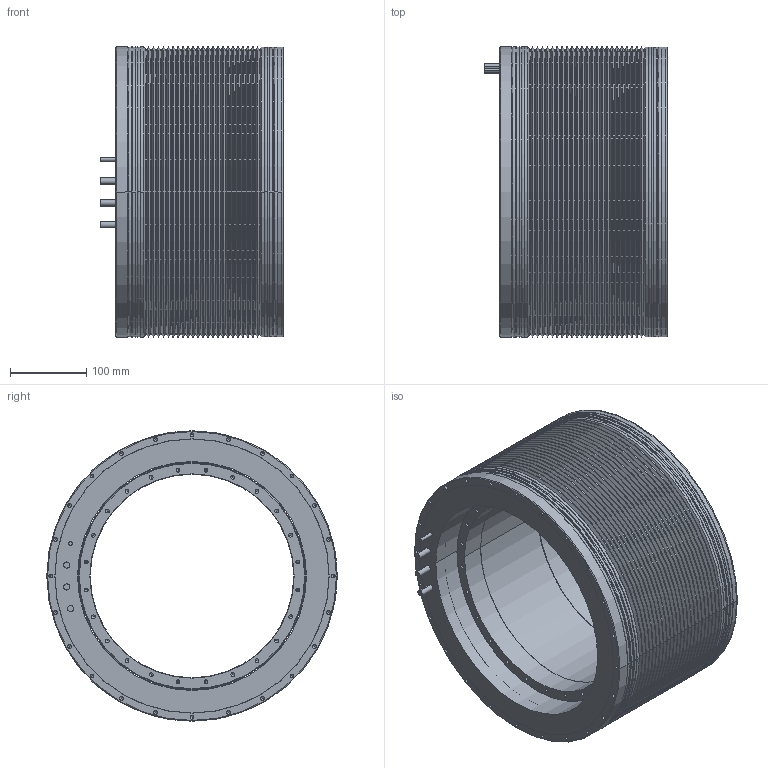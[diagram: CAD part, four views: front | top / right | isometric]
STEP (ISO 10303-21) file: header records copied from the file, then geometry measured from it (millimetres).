
FILE_DESCRIPTION((''),'2;1');
FILE_NAME('TK370-150','2017-10-26T',('stefanos'),(''),'CREO PARAMETRIC BY PTC INC, 2015480','CREO PARAMETRIC BY PTC INC, 2015480','');
FILE_SCHEMA(('CONFIG_CONTROL_DESIGN'));
Length unit declared in the file: millimetre
Products named in the file (1): TK370-150
Bounding box: 240 x 381 x 381 mm (x, y, z)
Volume: 11178128.9 mm3; surface area: 1954622.3 mm2
Topology: 9 solids, 9 shells, 639 faces, 1422 edges, 748 vertices
Faces by surface type: cylinder 310, cone 260, plane 37, torus 16, revolution 16
Entity records: 17966 total; most frequent: CARTESIAN_POINT 4185, DIRECTION 3184, ORIENTED_EDGE 2556, AXIS2_PLACEMENT_3D 1299, EDGE_CURVE 1278, VERTEX_POINT 748, EDGE_LOOP 748, CIRCLE 676
